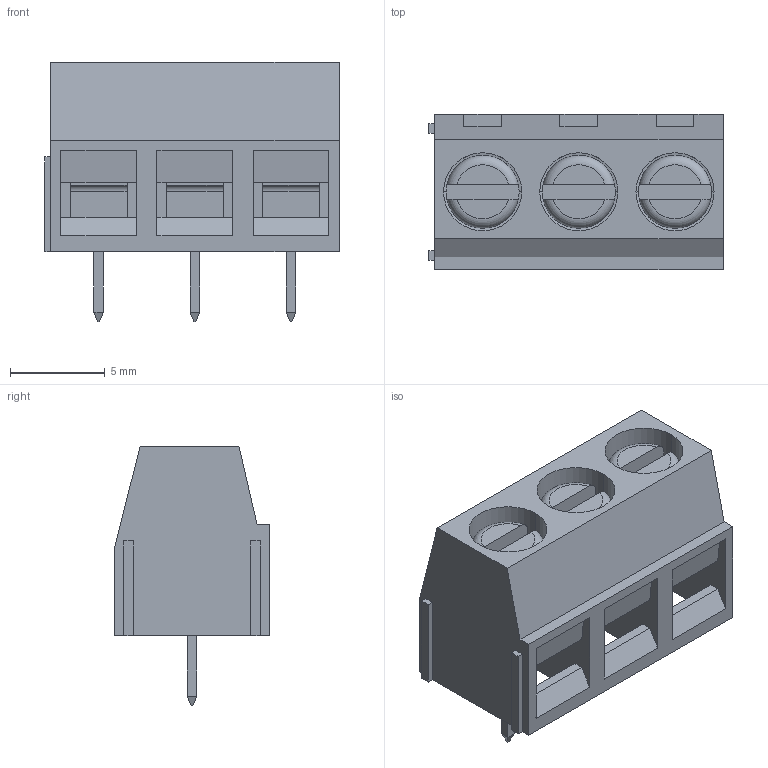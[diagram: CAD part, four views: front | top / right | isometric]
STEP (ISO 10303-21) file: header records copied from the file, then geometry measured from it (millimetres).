
FILE_DESCRIPTION (( 'STEP AP214' ), '1' );
FILE_NAME ('CONN-TH_3P-P5.08_KF127-5.08-3P.step', '2022-07-29T16:53:16', ( '' ), ( '' ), 'SwSTEP 2.0', 'SolidWorks 2020', '' );
FILE_SCHEMA (( 'AUTOMOTIVE_DESIGN' ));
Length unit declared in the file: millimetre
Products named in the file (1): CONN-TH_3P-P5.08_KF127-5.08-3P
Bounding box: 15.54 x 8.2 x 13.7 mm (x, y, z)
Volume: 630 mm3; surface area: 1654 mm2
Topology: 17 solids, 17 shells, 481 faces, 1263 edges, 807 vertices
Faces by surface type: plane 335, bspline 98, cylinder 36, cone 6, torus 6
Entity records: 20645 total; most frequent: CARTESIAN_POINT 3918, ORIENTED_EDGE 2526, DIRECTION 1918, EDGE_CURVE 1263, VECTOR 952, LINE 952, VERTEX_POINT 807, EDGE_LOOP 508
